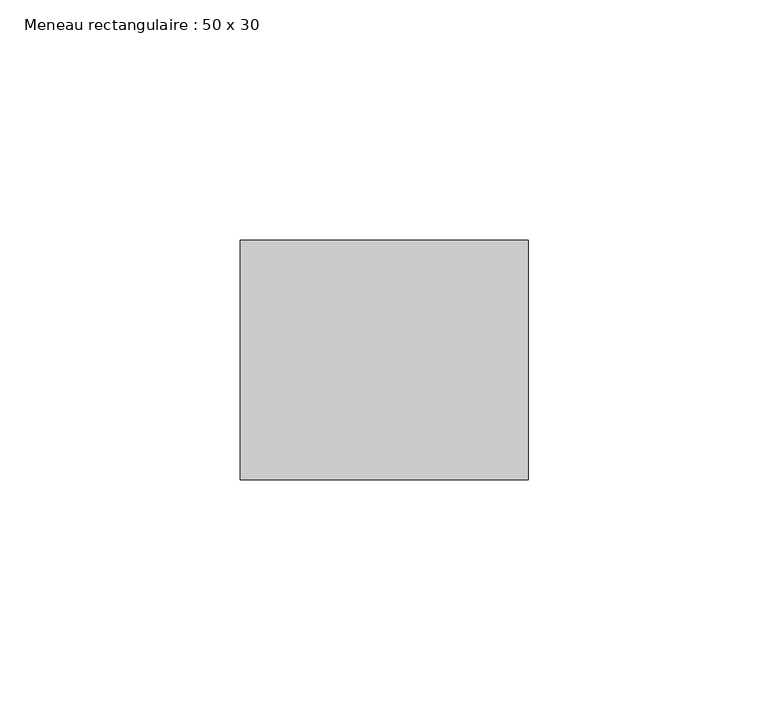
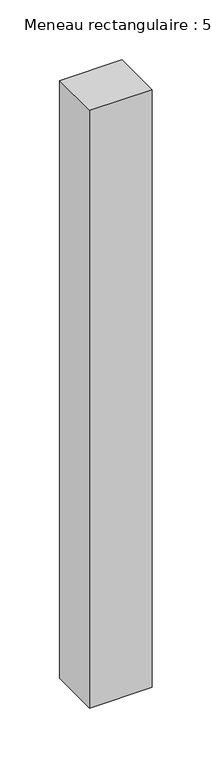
"""IFC4 building model written with IfcOpenShell, lengths in millimetres: member geometry, Meneau rectangulaire : 50 x 30."""

from ifc_helpers import new_model, si_unit, frame, origin, place, context, project, spatial, polyline, outline, extrude, source, transform, mapped, element, save


def meneau_rectangulaire_50_x_30_75cf5b32(model_context):
    return source(origin(), model_context, "Body", "SweptSolid", [
        extrude(outline(polyline([(30.0, 0.0), (30.0, -50.0), (-30.0, -50.0), (-30.0, 0.0), (30.0, 0.0)])), frame((0.0, 0.0, -609.0), z_axis=(0.0, 0.0, 1.0), x_axis=(1.0, 0.0, 0.0)), (0.0, 0.0, 1.0), 609.0),
    ])


if __name__ == "__main__":
    model = new_model("IFC4")
    model_context = context("Model", 3, world=origin())
    ifc_project = project(units=[si_unit("LENGTHUNIT", "METRE", prefix="MILLI")], contexts=[model_context])
    site = spatial("IfcSite", under=ifc_project)
    building = spatial("IfcBuilding", under=site)
    placement = place(None, origin())
    meneau_rectangulaire_50_x_30_shape = meneau_rectangulaire_50_x_30_75cf5b32(model_context)
    element("IfcMember", 1, ObjectType="Meneau rectangulaire : 50 x 30", at=placement, inside=building, context=model_context, shape_type="MappedRepresentation", body=[
        mapped(meneau_rectangulaire_50_x_30_shape, transform((0.0, 0.0, 0.0), x_axis=(1.0, 0.0, 0.0), y_axis=(0.0, 1.0, 0.0), z_axis=(0.0, 0.0, 1.0))),
    ])
    save(model, "model.ifc")
